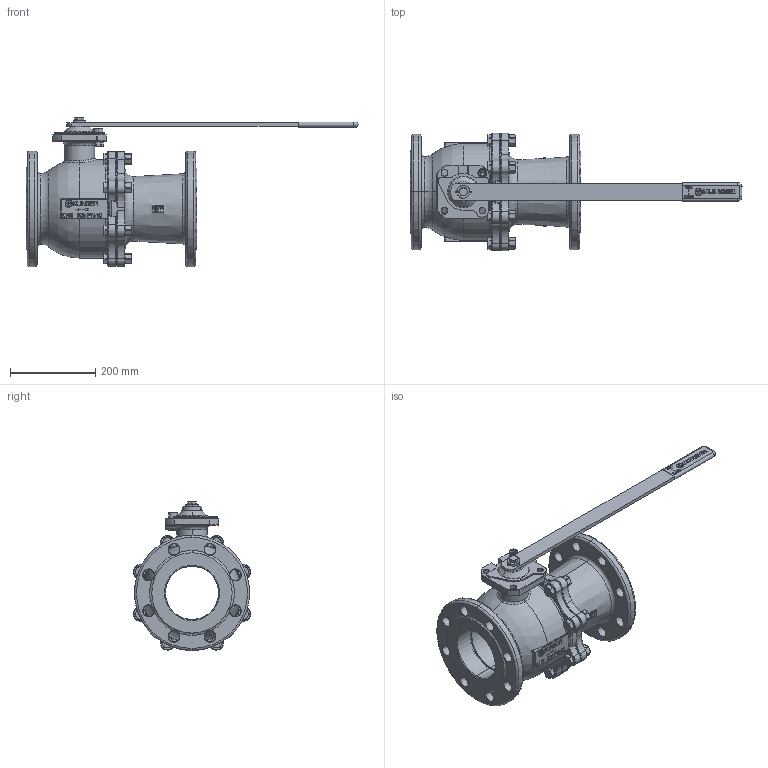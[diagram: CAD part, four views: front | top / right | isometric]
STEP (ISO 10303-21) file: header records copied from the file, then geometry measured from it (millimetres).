
FILE_DESCRIPTION((''),'2;1');
FILE_NAME('KHEFK125VFL125P040PHH','2015-08-10T',('mahrhauserh'),('RAND'),'PRO/ENGINEER BY PARAMETRIC TECHNOLOGY CORPORATION, 2013410','PRO/ENGINEER BY PARAMETRIC TECHNOLOGY CORPORATION, 2013410','');
FILE_SCHEMA(('CONFIG_CONTROL_DESIGN'));
Products named in the file (1): KHEFK125VFL125P040PHH
Bounding box: 777 x 274.21 x 349 mm (x, y, z)
Volume: 8584905.6 mm3; surface area: 1143422.9 mm2
Topology: 1 solids, 1 shells, 3287 faces, 8642 edges, 5503 vertices
Faces by surface type: plane 2019, cylinder 465, torus 347, cone 290, bspline 152, sphere 14
Entity records: 126459 total; most frequent: CARTESIAN_POINT 45508, ORIENTED_EDGE 17280, DIRECTION 16353, EDGE_CURVE 8640, VECTOR 5745, LINE 5745, VERTEX_POINT 5503, AXIS2_PLACEMENT_3D 5304
